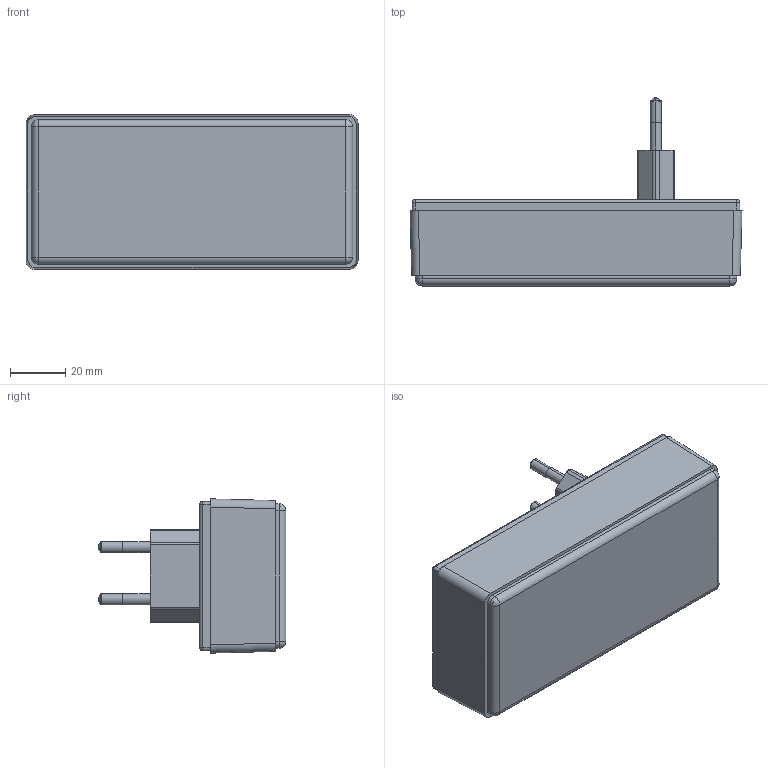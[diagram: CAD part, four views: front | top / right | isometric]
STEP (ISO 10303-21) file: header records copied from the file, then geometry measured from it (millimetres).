
FILE_DESCRIPTION (( 'STEP AP214' ), '1' );
FILE_NAME ('Conjunt PP54.STEP', '2019-11-07T13:32:55', ( 'aaa' ), ( '' ), 'SwSTEP 2.0', 'SolidWorks 2014', '' );
FILE_SCHEMA (( 'AUTOMOTIVE_DESIGN' ));
Length unit declared in the file: millimetre
Products named in the file (5): Cargol M 3x20 PP54; Cargol 2,1x6,5 PP54; Tapa PP54; Cuerpo PP54; Conjunt PP54
Assembly tree (7 placements, depth 2):
  Conjunt PP54
    Cuerpo PP54
    Tapa PP54
    Cargol 2,1x6,5 PP54  x2
    Cargol M 3x20 PP54  x3
Bounding box: 120.5 x 68.2 x 56 mm (x, y, z)
Volume: 52455.4 mm3; surface area: 55508.8 mm2
Topology: 9 solids, 9 shells, 894 faces, 1891 edges, 1054 vertices
Faces by surface type: cone 560, plane 177, cylinder 135, torus 14, sphere 8
Entity records: 13470 total; most frequent: DIRECTION 2453, CARTESIAN_POINT 2204, ORIENTED_EDGE 2062, EDGE_CURVE 1031, AXIS2_PLACEMENT_3D 954, VERTEX_POINT 609, LINE 545, VECTOR 545
